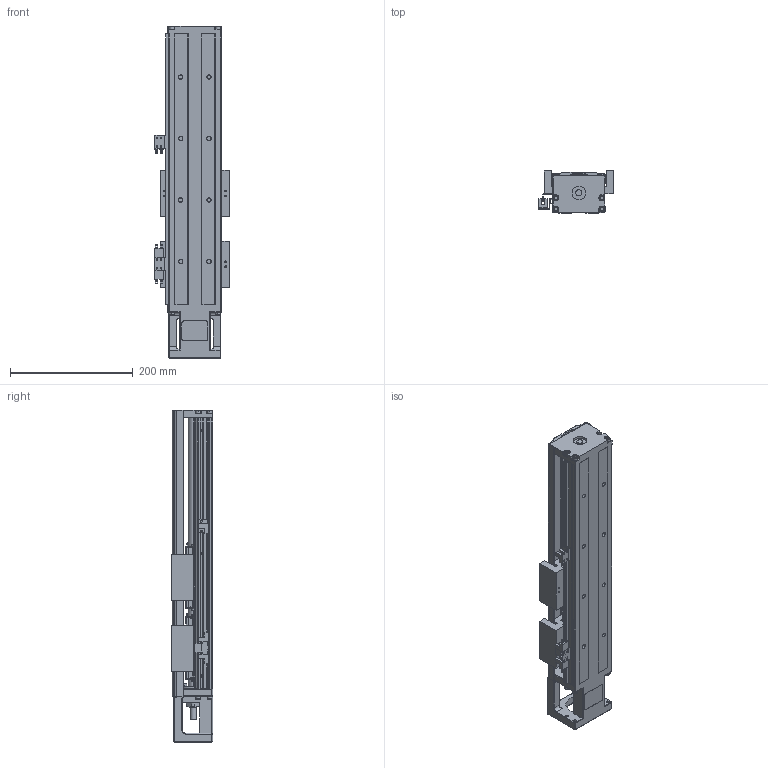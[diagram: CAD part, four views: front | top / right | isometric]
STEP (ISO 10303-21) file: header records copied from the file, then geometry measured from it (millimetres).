
FILE_DESCRIPTION (( 'STEP AP214' ), '1' );
FILE_NAME ('SFKK86-440A2-F0C.STEP', '2022-05-05T12:06:40', ( '微软用户' ), ( '微软中国' ), 'SwSTEP 2.0', 'SolidWorks 2018', '' );
FILE_SCHEMA (( 'AUTOMOTIVE_DESIGN' ));
Length unit declared in the file: millimetre
Products named in the file (11): 开关固定座：KK-674S2-F; hexagon socket countersunk head screws gb_GB_FASTENER_SCREWS_HSCHS M4X10-N; SX674嫖萇羲壽; 带盖挡光片：KK-86-S2-D1; SFKK86-LR 憤癹寢耋_440; SFKK86-F0_KKR86-ZT-P-440; SFKK86-CU_440; SFKK86-A1-C; 极限轨道与开关固定座组合_440; hexagon socket countersunk head screws gb_GB_FASTENER_SCREWS_HSCHS M3X8-N; SFKK86-440A2-F0C
Assembly tree (18 placements, depth 3):
  SFKK86-440A2-F0C
    SFKK86-F0_KKR86-ZT-P-440
    SFKK86-A1-C  x2
    极限轨道与开关固定座组合_440
      SFKK86-LR 憤癹寢耋_440
      开关固定座：KK-674S2-F  x2
    SX674嫖萇羲壽  x3
    带盖挡光片：KK-86-S2-D1
    hexagon socket countersunk head screws gb_GB_FASTENER_SCREWS_HSCHS M3X8-N  x2
    SFKK86-CU_440
    hexagon socket countersunk head screws gb_GB_FASTENER_SCREWS_HSCHS M4X10-N  x4
Bounding box: 121.25 x 68 x 540 mm (x, y, z)
Volume: 1727603.4 mm3; surface area: 528765.2 mm2
Topology: 60 solids, 60 shells, 2721 faces, 6972 edges, 4361 vertices
Faces by surface type: plane 1382, cylinder 904, cone 320, torus 85, sphere 24, bspline 6
Entity records: 55339 total; most frequent: CARTESIAN_POINT 12686, DIRECTION 8868, ORIENTED_EDGE 8384, EDGE_CURVE 4192, AXIS2_PLACEMENT_3D 3147, VERTEX_POINT 2674, VECTOR 2574, LINE 2574
